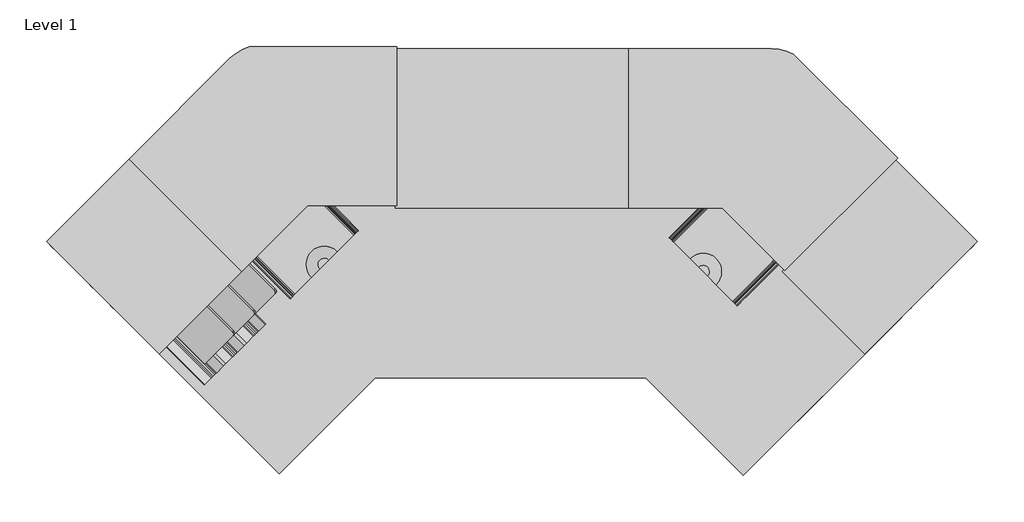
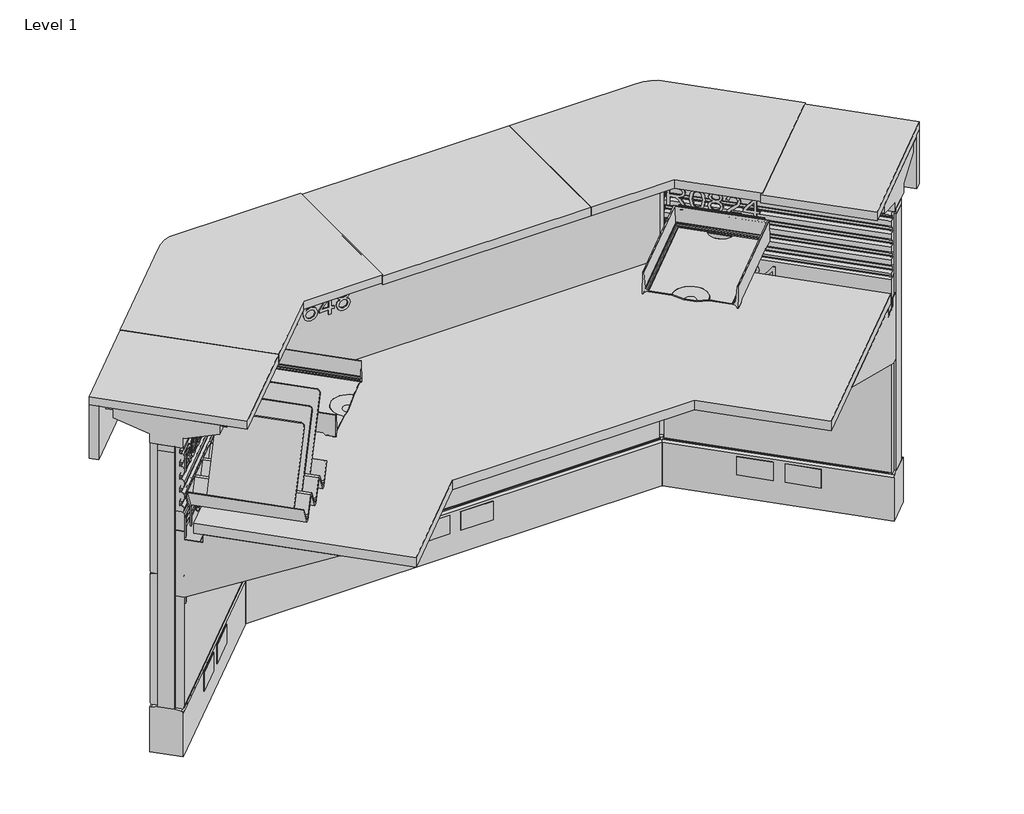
# One storey: 37 furniture elements.
"""IFC4 building model written with IfcOpenShell, lengths in millimetres."""

from ifc_helpers import new_model, si_unit, origin, place, context, project, spatial, transform, mapped, element, save
from components import furniture_a86162da, furniture_8828cb60, furniture_deab35e4, furniture_d1243616, furniture_82e04d0f, furniture_23395ff5, furniture_050a35a8, furniture_df6beef7, furniture_a22bda66, furniture_0245ad47, furniture_adfb5ce8, furniture_c5aecc28, furniture_dabdfb29, furniture_2b4b025d, furniture_9dcc6860, furniture_bfd90adf, furniture_135_deg_1ba110b8, furniture_135_deg_corner_e0015eda, furniture_24d_left_781ecdd2, furniture_24d_right_b8f5cfed, furniture_68980961, end_cap_54c5994d

model = new_model("IFC4")

# Units and contexts
model_context = context("Model", 3, world=origin())
ifc_project = project(units=[si_unit("LENGTHUNIT", "METRE", prefix="MILLI")], contexts=[model_context])

# Site, building, storey
site = spatial("IfcSite", under=ifc_project)
building = spatial("IfcBuilding", under=site)
storey = spatial("IfcBuildingStorey", under=building, Name="Level 1", Elevation=0.0)

# Furniture
placement = place(None, origin())
furniture_shape = furniture_a86162da(model_context)
element("IfcFurniture", 1, ObjectType="HermanMiller_Ethospace_E2830_SqEdgeCounterTop : 7-1/2\"H x 16-3/8\"D x 24\"W", at=placement, inside=storey, context=model_context, shape_type="MappedRepresentation", body=[
    mapped(furniture_shape, transform((1103.51316, 407.86812, 0.0), x_axis=(1.0, 0.0, 0.0), y_axis=(0.0, 1.0, 0.0), z_axis=(0.0, 0.0, 1.0))),
])
furniture_2_shape = furniture_8828cb60(model_context)
element("IfcFurniture", 2, ObjectType="HermanMiller_Ethospace_E2827_CounterTopSupport : 24\"W W/Light", at=placement, inside=storey, context=model_context, shape_type="MappedRepresentation", body=[
    mapped(furniture_2_shape, transform((1951.0906144, 177.4959205, 0.0), x_axis=(0.7071067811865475, -0.7071067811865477, 0.0), y_axis=(0.7071067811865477, 0.7071067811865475, 0.0), z_axis=(0.0, 0.0, 1.0))),
])
element("IfcFurniture", 3, ObjectType="HermanMiller_Ethospace_E2827_CounterTopSupport : 24\"W W/Light", at=placement, inside=storey, context=model_context, shape_type="MappedRepresentation", body=[
    mapped(furniture_2_shape, transform((255.5156595, 174.6933544, 0.0), x_axis=(0.7071067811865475, 0.7071067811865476, 0.0), y_axis=(-0.7071067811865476, 0.7071067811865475, 0.0), z_axis=(0.0, 0.0, 1.0))),
])
furniture_3_shape = furniture_deab35e4(model_context)
element("IfcFurniture", 4, ObjectType="HermanMiller_Ethospace_E1425_RailTile : 08\"H x 24\"W", at=placement, inside=storey, context=model_context, shape_type="MappedRepresentation", body=[
    mapped(furniture_3_shape, transform((262.6731587, 168.3791351, 0.0), x_axis=(0.7071067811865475, 0.7071067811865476, 0.0), y_axis=(-0.7071067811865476, 0.7071067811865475, 0.0), z_axis=(0.0, 0.0, 1.0))),
])
element("IfcFurniture", 5, ObjectType="HermanMiller_Ethospace_E1425_RailTile : 08\"H x 24\"W", at=placement, inside=storey, context=model_context, shape_type="MappedRepresentation", body=[
    mapped(furniture_3_shape, transform((1944.3547551, 168.3800813, 0.0), x_axis=(0.7071067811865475, -0.7071067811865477, 0.0), y_axis=(0.7071067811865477, 0.7071067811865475, 0.0), z_axis=(0.0, 0.0, 1.0))),
])
furniture_4_shape = furniture_d1243616(model_context)
element("IfcFurniture", 6, ObjectType="HermanMiller_Ethospace_E1420_FaceTile : Ptd 16\"H x 24\"W", at=placement, inside=storey, context=model_context, shape_type="MappedRepresentation", body=[
    mapped(furniture_4_shape, transform((1982.5224613, 206.5458951, 0.0), x_axis=(-0.7071067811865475, 0.7071067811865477, 0.0), y_axis=(-0.7071067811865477, -0.7071067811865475, 0.0), z_axis=(0.0, 0.0, 1.0))),
])
element("IfcFurniture", 7, ObjectType="HermanMiller_Ethospace_E1420_FaceTile : Ptd 16\"H x 24\"W", at=placement, inside=storey, context=model_context, shape_type="MappedRepresentation", body=[
    mapped(furniture_4_shape, transform((1937.6195587, 161.6448849, 0.0), x_axis=(0.7071067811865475, -0.7071067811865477, 0.0), y_axis=(0.7071067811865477, 0.7071067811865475, 0.0), z_axis=(0.0, 0.0, 1.0))),
])
element("IfcFurniture", 8, ObjectType="HermanMiller_Ethospace_E1420_FaceTile : Ptd 16\"H x 24\"W", at=placement, inside=storey, context=model_context, shape_type="MappedRepresentation", body=[
    mapped(furniture_4_shape, transform((224.5073449, 206.5468413, 0.0), x_axis=(-0.7071067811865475, -0.7071067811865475, 0.0), y_axis=(0.7071067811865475, -0.7071067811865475, 0.0), z_axis=(0.0, 0.0, 1.0))),
])
element("IfcFurniture", 9, ObjectType="HermanMiller_Ethospace_E1420_FaceTile : Ptd 16\"H x 24\"W", at=placement, inside=storey, context=model_context, shape_type="MappedRepresentation", body=[
    mapped(furniture_4_shape, transform((269.4083551, 161.6439387, 0.0), x_axis=(0.7071067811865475, 0.7071067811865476, 0.0), y_axis=(-0.7071067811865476, 0.7071067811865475, 0.0), z_axis=(0.0, 0.0, 1.0))),
])
furniture_5_shape = furniture_82e04d0f(model_context)
element("IfcFurniture", 10, ObjectType="HermanMiller_Ethospace_E1109_Frame : 38\"H x 24\"W-H", at=placement, inside=storey, context=model_context, shape_type="MappedRepresentation", body=[
    mapped(furniture_5_shape, transform((1960.0702065, 184.0955264, 0.0), x_axis=(0.7071067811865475, -0.7071067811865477, 0.0), y_axis=(0.7071067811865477, 0.7071067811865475, 0.0), z_axis=(0.0, 0.0, 1.0))),
])
element("IfcFurniture", 11, ObjectType="HermanMiller_Ethospace_E1109_Frame : 38\"H x 24\"W-H", at=placement, inside=storey, context=model_context, shape_type="MappedRepresentation", body=[
    mapped(furniture_5_shape, transform((246.5354033, 183.6736105, 0.0), x_axis=(0.7071067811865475, 0.7071067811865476, 0.0), y_axis=(-0.7071067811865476, 0.7071067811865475, 0.0), z_axis=(0.0, 0.0, 1.0))),
])
furniture_6_shape = furniture_23395ff5(model_context)
element("IfcFurniture", 12, ObjectType="HermanMiller_ThrivePortfolio_Y7218_DiagonalTray : 8 1/2\"H x 12\"D x 13\"W", at=placement, inside=storey, context=model_context, shape_type="MappedRepresentation", body=[
    mapped(furniture_6_shape, transform((270.8021179, -74.200233, 0.0), x_axis=(0.7071067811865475, 0.7071067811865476, 0.0), y_axis=(-0.7071067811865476, 0.7071067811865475, 0.0), z_axis=(0.0, 0.0, 1.0))),
])
furniture_7_shape = furniture_050a35a8(model_context)
element("IfcFurniture", 13, ObjectType="HermanMiller_Ethospace_EWS73_F_Sq-Edge135WorkSurfaceDouble_FrameAttached : Ptd 24D 48W", at=placement, inside=storey, context=model_context, shape_type="MappedRepresentation", body=[
    mapped(furniture_7_shape, transform((1255.7733956, 227.3535418, 0.0), x_axis=(0.7071067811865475, 0.7071067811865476, 0.0), y_axis=(-0.7071067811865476, 0.7071067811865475, 0.0), z_axis=(0.0, 0.0, 1.0))),
])
furniture_8_shape = furniture_df6beef7(model_context)
element("IfcFurniture", 14, ObjectType="HermanMiller_Ethospace_E2827_CounterTopSupport : 48\"W W/Light", at=placement, inside=storey, context=model_context, shape_type="MappedRepresentation", body=[
    mapped(furniture_8_shape, transform((1103.09406, 399.51914, 0.0), x_axis=(1.0, 0.0, 0.0), y_axis=(0.0, 1.0, 0.0), z_axis=(0.0, 0.0, 1.0))),
])
furniture_9_shape = furniture_a22bda66(model_context)
element("IfcFurniture", 15, ObjectType="HermanMiller_Ethospace_E1422_TackableTile : 16\"H x 48\"W", at=placement, inside=storey, context=model_context, shape_type="MappedRepresentation", body=[
    mapped(furniture_9_shape, transform((1103.51316, 380.8907739, 0.0), x_axis=(1.0, 0.0, 0.0), y_axis=(0.0, 1.0, 0.0), z_axis=(0.0, 0.0, 1.0))),
])
furniture_10_shape = furniture_0245ad47(model_context)
element("IfcFurniture", 16, ObjectType="HermanMiller_Ethospace_E1420_FaceTile : Ptd 16\"H x 48\"W", at=placement, inside=storey, context=model_context, shape_type="MappedRepresentation", body=[
    mapped(furniture_10_shape, transform((1103.51316, 444.3907861, 0.0), x_axis=(-1.0, 0.0, 0.0), y_axis=(0.0, -1.0, 0.0), z_axis=(0.0, 0.0, 1.0))),
])
element("IfcFurniture", 17, ObjectType="HermanMiller_Ethospace_E1420_FaceTile : Ptd 16\"H x 48\"W", at=placement, inside=storey, context=model_context, shape_type="MappedRepresentation", body=[
    mapped(furniture_10_shape, transform((1103.51316, 383.2707539, 0.0), x_axis=(1.0, 0.0, 0.0), y_axis=(0.0, 1.0, 0.0), z_axis=(0.0, 0.0, 1.0))),
])
furniture_11_shape = furniture_adfb5ce8(model_context)
element("IfcFurniture", 18, ObjectType="HermanMiller_Ethospace_E1420_FaceTile : Ptd 16\"H x 48\"W", at=placement, inside=storey, context=model_context, shape_type="MappedRepresentation", body=[
    mapped(furniture_11_shape, transform((1103.51316, 444.3907861, 0.0), x_axis=(-1.0, 0.0, 0.0), y_axis=(0.0, -1.0, 0.0), z_axis=(0.0, 0.0, 1.0))),
])
furniture_12_shape = furniture_c5aecc28(model_context)
element("IfcFurniture", 19, ObjectType="HermanMiller_Ethospace_E1420_FaceTile : Ptd 08\"H x 24\"W", at=placement, inside=storey, context=model_context, shape_type="MappedRepresentation", body=[
    mapped(furniture_12_shape, transform((269.4083551, 161.6439387, 0.0), x_axis=(0.7071067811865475, 0.7071067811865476, 0.0), y_axis=(-0.7071067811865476, 0.7071067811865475, 0.0), z_axis=(0.0, 0.0, 1.0))),
])
element("IfcFurniture", 20, ObjectType="HermanMiller_Ethospace_E1420_FaceTile : Ptd 08\"H x 24\"W", at=placement, inside=storey, context=model_context, shape_type="MappedRepresentation", body=[
    mapped(furniture_12_shape, transform((1937.6195587, 161.6448849, 0.0), x_axis=(0.7071067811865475, -0.7071067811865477, 0.0), y_axis=(0.7071067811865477, 0.7071067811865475, 0.0), z_axis=(0.0, 0.0, 1.0))),
])
furniture_13_shape = furniture_dabdfb29(model_context)
element("IfcFurniture", 21, ObjectType="HermanMiller_Ethospace_E2830_SqEdgeCounterTop : 7-1/2\"H x 16-3/8\"D x 12\"W", at=placement, inside=storey, context=model_context, shape_type="MappedRepresentation", body=[
    mapped(furniture_13_shape, transform((2064.459201, 72.9853741, 0.0), x_axis=(0.7071067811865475, -0.7071067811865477, 0.0), y_axis=(0.7071067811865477, 0.7071067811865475, 0.0), z_axis=(0.0, 0.0, 1.0))),
])
element("IfcFurniture", 22, ObjectType="HermanMiller_Ethospace_E2830_SqEdgeCounterTop : 7-1/2\"H x 16-3/8\"D x 12\"W", at=placement, inside=storey, context=model_context, shape_type="MappedRepresentation", body=[
    mapped(furniture_13_shape, transform((142.1399259, 72.542941, 0.0), x_axis=(0.7071067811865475, 0.7071067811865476, 0.0), y_axis=(-0.7071067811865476, 0.7071067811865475, 0.0), z_axis=(0.0, 0.0, 1.0))),
])
furniture_14_shape = furniture_2b4b025d(model_context)
element("IfcFurniture", 23, ObjectType="HermanMiller_Ethospace_E1109_Frame : 38\"H x 48\"W-H", at=placement, inside=storey, context=model_context, shape_type="MappedRepresentation", body=[
    mapped(furniture_14_shape, transform((1103.09406, 412.21914, 0.0), x_axis=(1.0, 0.0, 0.0), y_axis=(0.0, 1.0, 0.0), z_axis=(0.0, 0.0, 1.0))),
])
furniture_15_shape = furniture_9dcc6860(model_context)
element("IfcFurniture", 24, ObjectType="HermanMiller_Ethospace_E1420_FaceTile : Ptd 16\"H x 24\"W", at=placement, inside=storey, context=model_context, shape_type="MappedRepresentation", body=[
    mapped(furniture_15_shape, transform((1982.5224613, 206.5458951, 0.0), x_axis=(-0.7071067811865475, 0.7071067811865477, 0.0), y_axis=(-0.7071067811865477, -0.7071067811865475, 0.0), z_axis=(0.0, 0.0, 1.0))),
])
element("IfcFurniture", 25, ObjectType="HermanMiller_Ethospace_E1420_FaceTile : Ptd 16\"H x 24\"W", at=placement, inside=storey, context=model_context, shape_type="MappedRepresentation", body=[
    mapped(furniture_15_shape, transform((224.5073449, 206.5468413, 0.0), x_axis=(-0.7071067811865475, -0.7071067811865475, 0.0), y_axis=(0.7071067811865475, -0.7071067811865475, 0.0), z_axis=(0.0, 0.0, 1.0))),
])
furniture_16_shape = furniture_bfd90adf(model_context)
element("IfcFurniture", 26, ObjectType="HermanMiller_ThrivePortfolio_Y7216_PaperTray : 3\"H x 12\"D x 10\"W", at=placement, inside=storey, context=model_context, shape_type="MappedRepresentation", body=[
    mapped(furniture_16_shape, transform((503.8844067, 160.5559157, 0.0), x_axis=(0.7071067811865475, 0.7071067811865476, 0.0), y_axis=(-0.7071067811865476, 0.7071067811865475, 0.0), z_axis=(0.0, 0.0, 1.0))),
])
element("IfcFurniture", 27, ObjectType="HermanMiller_ThrivePortfolio_Y7216_PaperTray : 3\"H x 12\"D x 10\"W", at=placement, inside=storey, context=model_context, shape_type="MappedRepresentation", body=[
    mapped(furniture_16_shape, transform((1711.7186757, 142.1595133, 0.0), x_axis=(0.7071067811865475, -0.7071067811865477, 0.0), y_axis=(0.7071067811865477, 0.7071067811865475, 0.0), z_axis=(0.0, 0.0, 1.0))),
])
furniture_135_deg_shape = furniture_135_deg_1ba110b8(model_context)
element("IfcFurniture", 28, ObjectType="HermanMiller_Ethospace_E2828_CounterTopSupportFiller : 135 Deg", at=placement, inside=storey, context=model_context, shape_type="MappedRepresentation", body=[
    mapped(furniture_135_deg_shape, transform((1768.278785, 399.95856, 0.0), x_axis=(1.0, 0.0, 0.0), y_axis=(0.0, 1.0, 0.0), z_axis=(0.0, 0.0, 1.0))),
])
element("IfcFurniture", 29, ObjectType="HermanMiller_Ethospace_E2828_CounterTopSupportFiller : 135 Deg", at=placement, inside=storey, context=model_context, shape_type="MappedRepresentation", body=[
    mapped(furniture_135_deg_shape, transform((510.4723801, 429.650075, 0.0), x_axis=(0.7071067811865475, 0.7071067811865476, 0.0), y_axis=(-0.7071067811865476, 0.7071067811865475, 0.0), z_axis=(0.0, 0.0, 1.0))),
])
furniture_135_deg_corner_shape = furniture_135_deg_corner_e0015eda(model_context)
element("IfcFurniture", 30, ObjectType="HermanMiller_Ethospace_E2831_SqEdgeCounterTopCorner : 135 Deg Corner", at=placement, inside=storey, context=model_context, shape_type="MappedRepresentation", body=[
    mapped(furniture_135_deg_corner_shape, transform((494.354571, 405.933418, 0.0), x_axis=(0.7071067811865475, 0.7071067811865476, 0.0), y_axis=(-0.7071067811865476, 0.7071067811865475, 0.0), z_axis=(0.0, 0.0, 1.0))),
])
element("IfcFurniture", 31, ObjectType="HermanMiller_Ethospace_E2831_SqEdgeCounterTopCorner : 135 Deg Corner", at=placement, inside=storey, context=model_context, shape_type="MappedRepresentation", body=[
    mapped(furniture_135_deg_corner_shape, transform((1740.11336, 394.583567, 0.0), x_axis=(1.0, 0.0, 0.0), y_axis=(0.0, 1.0, 0.0), z_axis=(0.0, 0.0, 1.0))),
])
furniture_24d_left_shape = furniture_24d_left_781ecdd2(model_context)
element("IfcFurniture", 32, ObjectType="HermanMiller_Ethospace_E2393_WorkSurfaceSupport : 24D Left", at=placement, inside=storey, context=model_context, shape_type="MappedRepresentation", body=[
    mapped(furniture_24d_left_shape, transform((227.8494142, -227.8494142, 0.0), x_axis=(0.7071067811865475, 0.7071067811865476, 0.0), y_axis=(-0.7071067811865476, 0.7071067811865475, 0.0), z_axis=(0.0, 0.0, 1.0))),
])
furniture_24d_right_shape = furniture_24d_right_b8f5cfed(model_context)
element("IfcFurniture", 33, ObjectType="HermanMiller_Ethospace_E2393_WorkSurfaceSupport : 24D Right", at=placement, inside=storey, context=model_context, shape_type="MappedRepresentation", body=[
    mapped(furniture_24d_right_shape, transform((1975.1383058, -231.8905542, 0.0), x_axis=(0.7071067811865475, -0.7071067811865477, 0.0), y_axis=(0.7071067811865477, 0.7071067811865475, 0.0), z_axis=(0.0, 0.0, 1.0))),
])
furniture_17_shape = furniture_68980961(model_context)
element("IfcFurniture", 34, ObjectType="HermanMiller_Ethospace_E1221_135DegreeConnector : 38\"H", at=placement, inside=storey, context=model_context, shape_type="MappedRepresentation", body=[
    mapped(furniture_17_shape, transform((1735.0832954, 335.9123438, 0.0), x_axis=(1.0, 0.0, 0.0), y_axis=(0.0, 1.0, 0.0), z_axis=(0.0, 0.0, 1.0))),
])
element("IfcFurniture", 35, ObjectType="HermanMiller_Ethospace_E1221_135DegreeConnector : 38\"H", at=placement, inside=storey, context=model_context, shape_type="MappedRepresentation", body=[
    mapped(furniture_17_shape, transform((532.2739628, 360.9004406, 0.0), x_axis=(0.7071067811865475, 0.7071067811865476, 0.0), y_axis=(-0.7071067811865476, 0.7071067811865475, 0.0), z_axis=(0.0, 0.0, 1.0))),
])
end_cap_shape = end_cap_54c5994d(model_context)
element("IfcFurniture", 36, ObjectType="HermanMiller_Ethospace_E2829_CounterTopSupportEndCap : End Cap", at=placement, inside=storey, context=model_context, shape_type="MappedRepresentation", body=[
    mapped(end_cap_shape, transform((2146.56416, 20.3601451, 0.0), x_axis=(-0.7071067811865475, 0.7071067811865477, 0.0), y_axis=(-0.7071067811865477, -0.7071067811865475, 0.0), z_axis=(0.0, 0.0, 1.0))),
])
element("IfcFurniture", 37, ObjectType="HermanMiller_Ethospace_E2829_CounterTopSupportEndCap : End Cap", at=placement, inside=storey, context=model_context, shape_type="MappedRepresentation", body=[
    mapped(end_cap_shape, transform((62.4413149, 17.5387, 0.0), x_axis=(-0.7071067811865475, -0.7071067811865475, 0.0), y_axis=(0.7071067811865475, -0.7071067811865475, 0.0), z_axis=(0.0, 0.0, 1.0))),
])

save(model, "model.ifc")
